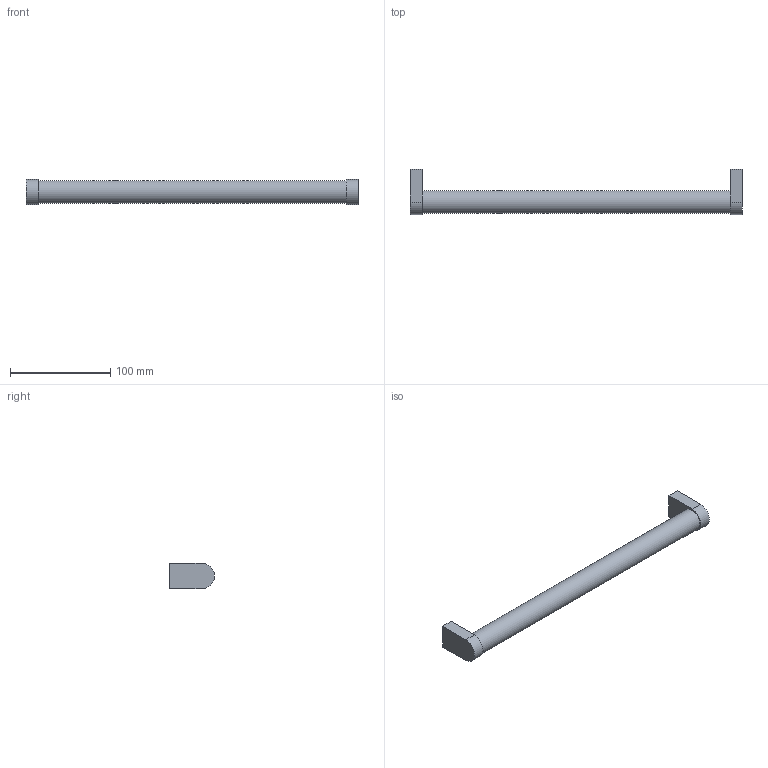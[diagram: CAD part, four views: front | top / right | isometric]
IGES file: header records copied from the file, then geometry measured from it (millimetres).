
Start section: Data from Parasolid IGES Translator 15.0.47, Copyright(c) 2006 Siemens P LM Software. All Rights Reserved.
Global section: file name: 115078.igs; native system:  By UGS Corp.; preprocessor: XPlus GENERIC/IGES 3.0; author: Noname; organization: Noname; date: 20140122.172745; units: millimetre
Bounding box: 332 x 45 x 25.68 mm (x, y, z)
Surface area: 28532.7 mm2 (no closed solid volume)
Topology: 0 solids, 0 shells, 17 faces, 66 edges, 62 vertices
Faces by surface type: extrusion 12, revolution 5
